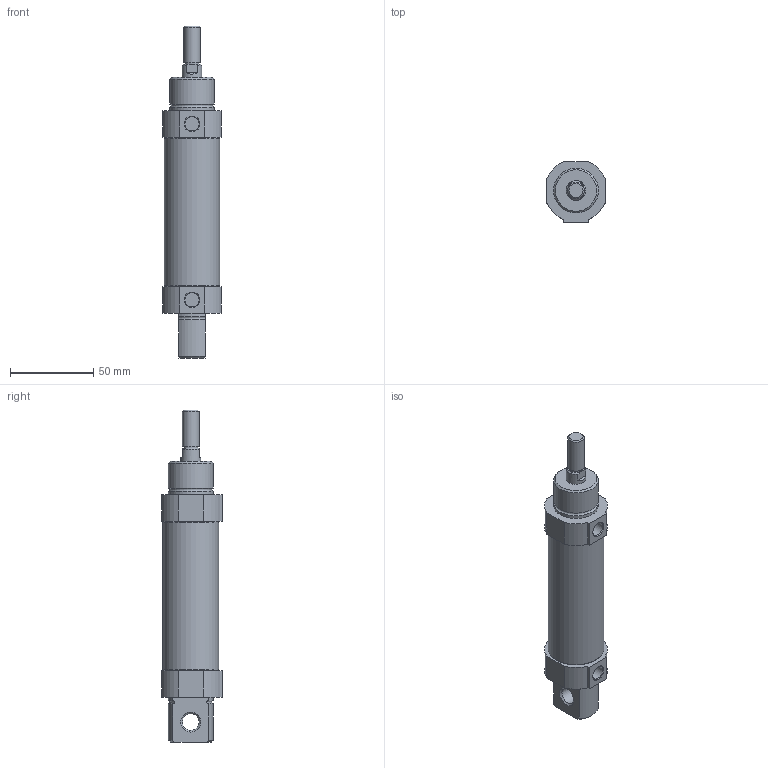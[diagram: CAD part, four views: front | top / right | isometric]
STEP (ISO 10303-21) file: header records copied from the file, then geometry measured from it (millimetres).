
FILE_DESCRIPTION((''),'2;1');
FILE_NAME('I:\3D電子目錄\氣缸\SDA\SDA32\SDA32\SDA32x50.stp','2007-08-06T10:36:16',('Administrator'),(''),'Autodesk Inventor 2008','Autodesk Inventor 2008','');
FILE_SCHEMA(('AUTOMOTIVE_DESIGN { 1 0 10303 214 1 1 1 1 }'));
Length unit declared in the file: millimetre
Products named in the file (1): SDA32X50
Bounding box: 35 x 36.5 x 200 mm (x, y, z)
Volume: 137257.2 mm3; surface area: 21818.2 mm2
Topology: 1 solids, 1 shells, 65 faces, 152 edges, 98 vertices
Faces by surface type: plane 27, cylinder 21, cone 12, torus 3, bspline 2
Full cylindrical faces by diameter (mm): 8.5 x2, 8.6 x1, 10 x2, 12 x1, 27 x2, 33.6 x1
Entity records: 1946 total; most frequent: CARTESIAN_POINT 486, DIRECTION 306, ORIENTED_EDGE 266, EDGE_CURVE 133, AXIS2_PLACEMENT_3D 121, VERTEX_POINT 97, EDGE_LOOP 94, FACE_OUTER_BOUND 65
